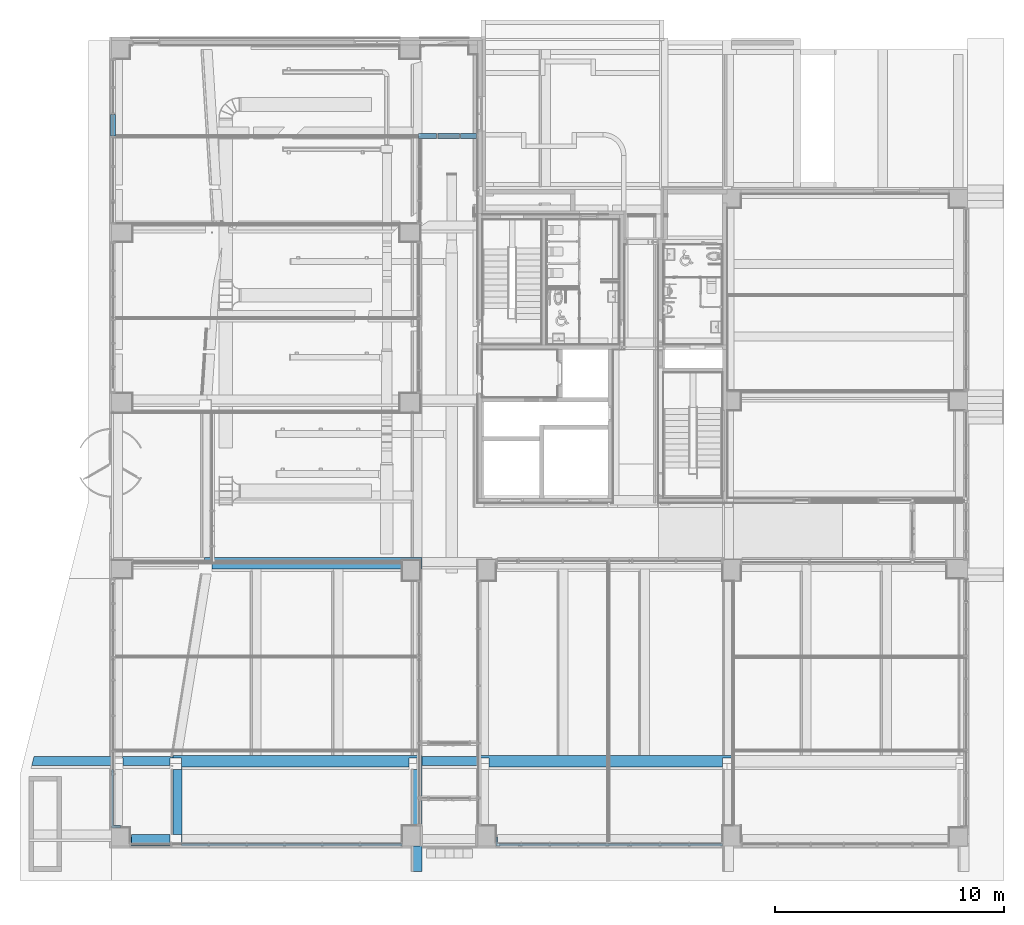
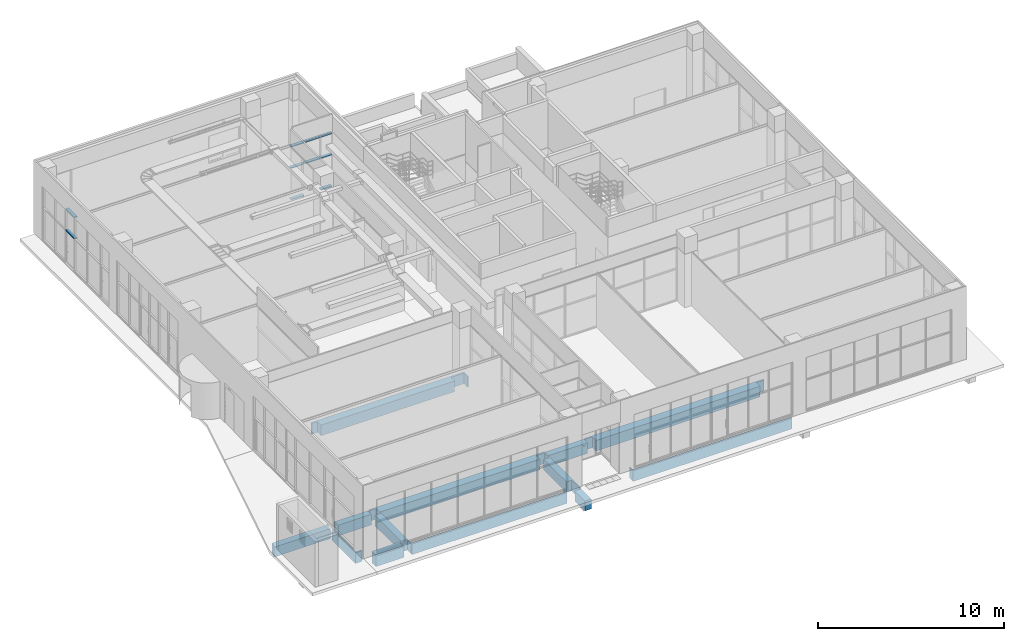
# One storey, part 20 of 100: 14 beams, 10 members, 2 elements without a shape of their own.
"""IFC2X3 building model written with IfcOpenShell, lengths in millimetres."""

from ifc_helpers import new_model, entity, si_unit, converted_unit, derived_unit, direction, frame, origin, origin_2d_with_axis, place, context, subcontext, project, spatial, rectangle, extrude, faceted_brep, source, transform, mapped, material, type_object, type_shapes, element, aggregate, save


model = new_model("IFC2X3")

# Units and contexts
model_context = context("Model", 3, precision=0.01, world=origin(), true_north=direction((6.123031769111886e-17, 1.0)))
body_context = subcontext(model_context, "Body", "Model", "MODEL_VIEW")
ifc_project = project(units=[si_unit("LENGTHUNIT", "METRE", prefix="MILLI"), si_unit("AREAUNIT", "SQUARE_METRE"), si_unit("VOLUMEUNIT", "CUBIC_METRE"), converted_unit("PLANEANGLEUNIT", "DEGREE", entity("IfcRatioMeasure", 0.017453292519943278), si_unit("PLANEANGLEUNIT", "RADIAN"), dimensions=[0, 0, 0, 0, 0, 0, 0]), si_unit("MASSUNIT", "GRAM", prefix="KILO"), derived_unit("MASSDENSITYUNIT", [(si_unit("MASSUNIT", "GRAM", prefix="KILO"), 1), (si_unit("LENGTHUNIT", "METRE"), -3)]), derived_unit("MOMENTOFINERTIAUNIT", [(si_unit("LENGTHUNIT", "METRE"), 4)]), si_unit("TIMEUNIT", "SECOND"), si_unit("FREQUENCYUNIT", "HERTZ"), si_unit("THERMODYNAMICTEMPERATUREUNIT", "DEGREE_CELSIUS"), derived_unit("THERMALTRANSMITTANCEUNIT", [(si_unit("MASSUNIT", "GRAM", prefix="KILO"), 1), (si_unit("THERMODYNAMICTEMPERATUREUNIT", "KELVIN"), -1), (si_unit("TIMEUNIT", "SECOND"), -3)]), derived_unit("VOLUMETRICFLOWRATEUNIT", [(si_unit("LENGTHUNIT", "METRE"), 3), (si_unit("TIMEUNIT", "SECOND"), -1)]), derived_unit("MASSFLOWRATEUNIT", [(si_unit("MASSUNIT", "GRAM", prefix="KILO"), 1), (si_unit("TIMEUNIT", "SECOND"), -1)]), derived_unit("ROTATIONALFREQUENCYUNIT", [(si_unit("TIMEUNIT", "SECOND"), -1)]), si_unit("ELECTRICCURRENTUNIT", "AMPERE"), si_unit("ELECTRICVOLTAGEUNIT", "VOLT"), si_unit("POWERUNIT", "WATT"), si_unit("FORCEUNIT", "NEWTON", prefix="KILO"), si_unit("ILLUMINANCEUNIT", "LUX"), si_unit("LUMINOUSFLUXUNIT", "LUMEN"), si_unit("LUMINOUSINTENSITYUNIT", "CANDELA"), derived_unit("USERDEFINED", [(si_unit("MASSUNIT", "GRAM", prefix="KILO"), -1), (si_unit("LENGTHUNIT", "METRE"), -2), (si_unit("TIMEUNIT", "SECOND"), 3), (si_unit("LUMINOUSFLUXUNIT", "LUMEN"), 1)]), derived_unit("SOUNDPOWERUNIT", [(si_unit("MASSUNIT", "GRAM", prefix="KILO"), 1), (si_unit("LENGTHUNIT", "METRE"), 2), (si_unit("TIMEUNIT", "SECOND"), -3)]), derived_unit("SOUNDPRESSUREUNIT", [(si_unit("MASSUNIT", "GRAM", prefix="KILO"), 1), (si_unit("LENGTHUNIT", "METRE"), -1), (si_unit("TIMEUNIT", "SECOND"), -2)]), derived_unit("LINEARVELOCITYUNIT", [(si_unit("LENGTHUNIT", "METRE"), 1), (si_unit("TIMEUNIT", "SECOND"), -1)]), si_unit("PRESSUREUNIT", "PASCAL"), derived_unit("USERDEFINED", [(si_unit("LENGTHUNIT", "METRE"), -2), (si_unit("MASSUNIT", "GRAM", prefix="KILO"), 1), (si_unit("TIMEUNIT", "SECOND"), -2)]), derived_unit("LINEARFORCEUNIT", [(si_unit("MASSUNIT", "GRAM", prefix="KILO"), 1), (si_unit("LENGTHUNIT", "METRE"), 1), (si_unit("TIMEUNIT", "SECOND"), -2), (si_unit("LENGTHUNIT", "METRE"), -1)]), derived_unit("PLANARFORCEUNIT", [(si_unit("MASSUNIT", "GRAM", prefix="KILO"), 1), (si_unit("LENGTHUNIT", "METRE"), 1), (si_unit("TIMEUNIT", "SECOND"), -2), (si_unit("LENGTHUNIT", "METRE"), -2)])], contexts=[model_context])

# Site, building, storey
site_placement = place(None, frame((-14167.972527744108, -657.2125860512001, 0.0)))
site = spatial("IfcSite", under=ifc_project, at=site_placement, Name="Default", CompositionType="ELEMENT")
building_placement = place(site_placement, origin())
building = spatial("IfcBuilding", under=site, at=building_placement, Name="Sample Building", CompositionType="ELEMENT")
storey_placement = place(building_placement, origin())
storey = spatial("IfcBuildingStorey", under=building, at=storey_placement, Name="지상 1층", CompositionType="ELEMENT", Elevation=0.0)

# Curtain wall, member
curtain_wall_type = type_object("IfcCurtainWallType", Name="커튼월:CW112-스테인리스 스틸 커튼월", PredefinedType="NOTDEFINED")
curtain_wall_1_placement = place(storey_placement, origin())
curtain_wall_1 = element("IfcCurtainWall", 1, at=curtain_wall_1_placement, inside=storey, type_object=curtain_wall_type, Name="커튼월:CW112-스테인리스 스틸 커튼월", ObjectType="커튼월:CW112-스테인리스 스틸 커튼월")
ifc_material_1 = material(Name="<Unnamed>")
member_type_1 = type_object("IfcMemberType", Name="직사각형 멀리언:CW200-직사각형 멀리언 50x200mm", PredefinedType="MULLION", material=ifc_material_1)
shared_shape_1 = source(origin(), body_context, "Body", "SweptSolid", [
    extrude(rectangle(XDim=200.0, YDim=50.0, at=origin_2d_with_axis()), frame((-25.0, 0.0, -950.0), z_axis=(0.0, 0.0, 1.0), x_axis=(0.0, -1.0, 0.0)), (0.0, 0.0, 1.0), 949.9999999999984),
])
type_shapes(member_type_1, [shared_shape_1])
member_1_placement = place(curtain_wall_1_placement, frame((14130.455105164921, 31582.177748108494, 3600.0), z_axis=(0.0, -1.0, 0.0), x_axis=(0.0, 0.0, 1.0)))
member_1 = element("IfcMember", 2, at=member_1_placement, type_object=member_type_1, material=ifc_material_1, Name="직사각형 멀리언:CW200-직사각형 멀리언 50x200mm", ObjectType="직사각형 멀리언:CW200-직사각형 멀리언 50x200mm", context=body_context, shape_type="MappedRepresentation", body=[
    mapped(shared_shape_1, transform((0.0, 0.0, 0.0), scale=1.0)),
])

curtain_wall_2_placement = place(storey_placement, origin())
curtain_wall_2 = element("IfcCurtainWall", 3, at=curtain_wall_2_placement, inside=storey, type_object=curtain_wall_type, Name="커튼월:CW112-스테인리스 스틸 커튼월", ObjectType="커튼월:CW112-스테인리스 스틸 커튼월")
member_2_placement = place(curtain_wall_2_placement, frame((29274.12581445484, 31587.177748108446, 3600.0), z_axis=(1.0, 0.0, 0.0), x_axis=(0.0, 0.0, 1.0)))
member_2 = element("IfcMember", 4, at=member_2_placement, type_object=member_type_1, material=ifc_material_1, Name="직사각형 멀리언:CW200-직사각형 멀리언 50x200mm", ObjectType="직사각형 멀리언:CW200-직사각형 멀리언 50x200mm", context=body_context, shape_type="MappedRepresentation", body=[
    mapped(shared_shape_1, transform((0.0, 0.0, 0.0), scale=1.0)),
])

# Member
member_type_2 = type_object("IfcMemberType", Name="직사각형 멀리언:CW200-직사각형 멀리언 50x200mm", PredefinedType="MULLION", material=ifc_material_1)
shared_shape_2 = source(origin(), body_context, "Body", "SweptSolid", [
    extrude(rectangle(XDim=200.0, YDim=50.0, at=origin_2d_with_axis()), frame((0.0, 0.0, -950.0), z_axis=(0.0, 0.0, 1.0), x_axis=(0.0, -1.0, 0.0)), (0.0, 0.0, 1.0), 949.9999999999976),
])
type_shapes(member_type_2, [shared_shape_2])
member_3_placement = place(curtain_wall_1_placement, frame((14130.455105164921, 31582.177748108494, 2180.0), z_axis=(0.0, -1.0, 0.0), x_axis=(0.0, 0.0, 1.0)))
member_3 = element("IfcMember", 5, at=member_3_placement, type_object=member_type_2, material=ifc_material_1, Name="직사각형 멀리언:CW200-직사각형 멀리언 50x200mm", ObjectType="직사각형 멀리언:CW200-직사각형 멀리언 50x200mm", context=body_context, shape_type="MappedRepresentation", body=[
    mapped(shared_shape_2, transform((0.0, 0.0, 0.0), scale=1.0)),
])

aggregate(curtain_wall_1, [member_1, member_3])

member_4_placement = place(curtain_wall_2_placement, frame((29274.12581445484, 31587.177748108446, 2180.0), z_axis=(1.0, 0.0, 0.0), x_axis=(0.0, 0.0, 1.0)))
member_4 = element("IfcMember", 6, at=member_4_placement, type_object=member_type_2, material=ifc_material_1, Name="직사각형 멀리언:CW200-직사각형 멀리언 50x200mm", ObjectType="직사각형 멀리언:CW200-직사각형 멀리언 50x200mm", context=body_context, shape_type="MappedRepresentation", body=[
    mapped(shared_shape_2, transform((0.0, 0.0, 0.0), scale=1.0)),
])

member_type_3 = type_object("IfcMemberType", Name="직사각형 멀리언:CW200-직사각형 멀리언 50x200mm", PredefinedType="MULLION", material=ifc_material_1)
shared_shape_3 = source(origin(), body_context, "Body", "SweptSolid", [
    extrude(rectangle(XDim=200.0, YDim=50.0, at=origin_2d_with_axis()), frame((-25.0, 0.0, -692.0), z_axis=(0.0, 0.0, 1.0), x_axis=(0.0, -1.0, 0.0)), (0.0, 0.0, 1.0), 691.9999999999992),
])
type_shapes(member_type_3, [shared_shape_3])
member_5_placement = place(curtain_wall_2_placement, frame((30016.125814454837, 31587.177748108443, 3600.0), z_axis=(1.0, 0.0, 0.0), x_axis=(0.0, 0.0, 1.0)))
member_5 = element("IfcMember", 7, at=member_5_placement, type_object=member_type_3, material=ifc_material_1, Name="직사각형 멀리언:CW200-직사각형 멀리언 50x200mm", ObjectType="직사각형 멀리언:CW200-직사각형 멀리언 50x200mm", context=body_context, shape_type="MappedRepresentation", body=[
    mapped(shared_shape_3, transform((0.0, 0.0, 0.0), scale=1.0)),
])

member_type_4 = type_object("IfcMemberType", Name="직사각형 멀리언:CW200-직사각형 멀리언 50x200mm", PredefinedType="MULLION", material=ifc_material_1)
shared_shape_4 = source(origin(), body_context, "Body", "SweptSolid", [
    extrude(rectangle(XDim=200.0, YDim=50.0, at=origin_2d_with_axis()), frame((-25.0, 0.0, -801.1533233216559), z_axis=(0.0, 0.0, 1.0), x_axis=(0.0, -1.0, 0.0)), (0.0, 0.0, 1.0), 801.1533233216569),
])
type_shapes(member_type_4, [shared_shape_4])
member_6_placement = place(curtain_wall_2_placement, frame((27472.97249113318, 31587.17774810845, 80.0), z_axis=(-1.0, 0.0, 0.0), x_axis=(0.0, 0.0, -1.0)))
member_6 = element("IfcMember", 8, at=member_6_placement, type_object=member_type_4, material=ifc_material_1, Name="직사각형 멀리언:CW200-직사각형 멀리언 50x200mm", ObjectType="직사각형 멀리언:CW200-직사각형 멀리언 50x200mm", context=body_context, shape_type="MappedRepresentation", body=[
    mapped(shared_shape_4, transform((0.0, 0.0, 0.0), scale=1.0)),
])

member_type_5 = type_object("IfcMemberType", Name="직사각형 멀리언:CW200-직사각형 멀리언 50x200mm", PredefinedType="MULLION", material=ifc_material_1)
shared_shape_5 = source(origin(), body_context, "Body", "SweptSolid", [
    extrude(rectangle(XDim=200.0, YDim=50.0, at=origin_2d_with_axis()), frame((0.0, 0.0, -801.1533233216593), z_axis=(0.0, 0.0, 1.0), x_axis=(0.0, -1.0, 0.0)), (0.0, 0.0, 1.0), 801.1533233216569),
])
type_shapes(member_type_5, [shared_shape_5])
member_7_placement = place(curtain_wall_2_placement, frame((28274.125814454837, 31587.177748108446, 2180.0), z_axis=(1.0, 0.0, 0.0), x_axis=(0.0, 0.0, 1.0)))
member_7 = element("IfcMember", 9, at=member_7_placement, type_object=member_type_5, material=ifc_material_1, Name="직사각형 멀리언:CW200-직사각형 멀리언 50x200mm", ObjectType="직사각형 멀리언:CW200-직사각형 멀리언 50x200mm", context=body_context, shape_type="MappedRepresentation", body=[
    mapped(shared_shape_5, transform((0.0, 0.0, 0.0), scale=1.0)),
])

member_type_6 = type_object("IfcMemberType", Name="직사각형 멀리언:CW200-직사각형 멀리언 50x200mm", PredefinedType="MULLION", material=ifc_material_1)
shared_shape_6 = source(origin(), body_context, "Body", "SweptSolid", [
    extrude(rectangle(XDim=200.0, YDim=50.0, at=origin_2d_with_axis()), frame((-25.0, 0.0, -801.1533233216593), z_axis=(0.0, 0.0, 1.0), x_axis=(0.0, -1.0, 0.0)), (0.0, 0.0, 1.0), 801.1533233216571),
])
type_shapes(member_type_6, [shared_shape_6])
member_8_placement = place(curtain_wall_2_placement, frame((28274.125814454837, 31587.177748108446, 3600.0), z_axis=(1.0, 0.0, 0.0), x_axis=(0.0, 0.0, 1.0)))
member_8 = element("IfcMember", 10, at=member_8_placement, type_object=member_type_6, material=ifc_material_1, Name="직사각형 멀리언:CW200-직사각형 멀리언 50x200mm", ObjectType="직사각형 멀리언:CW200-직사각형 멀리언 50x200mm", context=body_context, shape_type="MappedRepresentation", body=[
    mapped(shared_shape_6, transform((0.0, 0.0, 0.0), scale=1.0)),
])

member_type_7 = type_object("IfcMemberType", Name="직사각형 멀리언:CW200-직사각형 멀리언 50x200mm", PredefinedType="MULLION", material=ifc_material_1)
shared_shape_7 = source(origin(), body_context, "Body", "SweptSolid", [
    extrude(rectangle(XDim=200.0, YDim=50.0, at=origin_2d_with_axis()), frame((-25.0, 0.0, -692.0), z_axis=(0.0, 0.0, 1.0), x_axis=(0.0, -1.0, 0.0)), (0.0, 0.0, 1.0), 691.9999999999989),
])
type_shapes(member_type_7, [shared_shape_7])
member_9_placement = place(curtain_wall_2_placement, frame((29324.125814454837, 31587.177748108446, 80.0), z_axis=(-1.0, 0.0, 0.0), x_axis=(0.0, 0.0, -1.0)))
member_9 = element("IfcMember", 11, at=member_9_placement, type_object=member_type_7, material=ifc_material_1, Name="직사각형 멀리언:CW200-직사각형 멀리언 50x200mm", ObjectType="직사각형 멀리언:CW200-직사각형 멀리언 50x200mm", context=body_context, shape_type="MappedRepresentation", body=[
    mapped(shared_shape_7, transform((0.0, 0.0, 0.0), scale=1.0)),
])

member_type_8 = type_object("IfcMemberType", Name="직사각형 멀리언:CW200-직사각형 멀리언 50x200mm", PredefinedType="MULLION", material=ifc_material_1)
shared_shape_8 = source(origin(), body_context, "Body", "SweptSolid", [
    extrude(rectangle(XDim=200.0, YDim=50.0, at=origin_2d_with_axis()), frame((0.0, 0.0, -692.0), z_axis=(0.0, 0.0, 1.0), x_axis=(0.0, -1.0, 0.0)), (0.0, 0.0, 1.0), 691.9999999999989),
])
type_shapes(member_type_8, [shared_shape_8])
member_10_placement = place(curtain_wall_2_placement, frame((30016.125814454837, 31587.177748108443, 2180.0), z_axis=(1.0, 0.0, 0.0), x_axis=(0.0, 0.0, 1.0)))
member_10 = element("IfcMember", 12, at=member_10_placement, type_object=member_type_8, material=ifc_material_1, Name="직사각형 멀리언:CW200-직사각형 멀리언 50x200mm", ObjectType="직사각형 멀리언:CW200-직사각형 멀리언 50x200mm", context=body_context, shape_type="MappedRepresentation", body=[
    mapped(shared_shape_8, transform((0.0, 0.0, 0.0), scale=1.0)),
])

aggregate(curtain_wall_2, [member_5, member_6, member_7, member_8, member_4, member_2, member_9, member_10])

# Beams
ifc_material_2 = material(Name="KBIMS-콘크리트")
beam_type_1 = type_object("IfcBeamType", Name="BM111-철근콘크리트구조 보:BM110-철근 콘크리트구조 보_400 x 850_B1-1G3", PredefinedType="NOTDEFINED")
beam_1_placement = place(storey_placement, frame((14930.554555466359, 671.0771023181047, -850.0), z_axis=(0.0, 0.0, 1.0), x_axis=(-1.0, 0.0, 0.0)))
element("IfcBeam", 13, at=beam_1_placement, inside=storey, type_object=beam_type_1, material=ifc_material_2, Name="BM111-철근콘크리트구조 보:BM110-철근 콘크리트구조 보_400 x 850_B1-1G3", ObjectType="BM111-철근콘크리트구조 보:BM110-철근 콘크리트구조 보_400 x 850_B1-1G3", context=body_context, shape_type="Brep", body=[
    faceted_brep([(0.0, -400.0, 0.0), (0.0, -286.13550187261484, 0.0), (0.0, 0.0, 0.0), (0.0, 0.0, 700.0), (0.0, -286.1355018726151, 700.0), (0.0, -400.0, 700.0), (-1687.391893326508, 0.0, 0.0), (-1687.391893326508, 0.0, 700.0), (-1737.3918933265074, -400.0, 0.0), (-1812.6913436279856, -400.0, 0.0), (-2212.691343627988, -400.0, 0.0), (-2212.691343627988, 0.0, 0.0), (-2187.3918933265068, 0.0, 0.0), (-2187.3918933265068, -386.1355018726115, 0.0), (-1687.391893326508, -386.1355018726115, 0.0), (-1737.3918933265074, -400.0, 700.0), (-1812.6913436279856, -400.0, 700.0), (-2212.691343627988, -400.0, 700.0), (-1687.391893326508, -386.1355018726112, 700.0), (-2187.3918933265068, -386.1355018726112, 700.0), (-2187.3918933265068, 0.0, 700.0), (-2212.691343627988, 0.0, 700.0)], [[[0, 1, 2, 3, 4, 5]], [[3, 2, 6, 7]], [[2, 1, 0, 8, 9, 10, 11, 12, 13, 14, 6]], [[0, 5, 15, 16, 17, 10, 9, 8]], [[5, 4, 3, 7, 18, 19, 20, 21, 17, 16, 15]], [[11, 10, 17, 21]], [[19, 13, 12, 20]], [[14, 18, 7, 6]], [[18, 14, 13, 19]], [[11, 21, 20, 12]]]),
])
beam_2_placement = place(storey_placement, frame((14543.237206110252, 4071.0771902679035, -850.0)))
element("IfcBeam", 14, at=beam_2_placement, inside=storey, type_object=beam_type_1, material=ifc_material_2, Name="BM111-철근콘크리트구조 보:BM110-철근 콘크리트구조 보_400 x 850_B1-1G3", ObjectType="BM111-철근콘크리트구조 보:BM110-철근 콘크리트구조 보_400 x 850_B1-1G3", context=body_context, shape_type="Brep", body=[
    faceted_brep([(0.0, 400.0, 0.0), (0.0, 400.0, 700.0), (2121.7153851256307, 400.0, 700.0), (2178.511854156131, 400.0, 700.0), (2200.008692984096, 400.0, 700.0), (2200.008692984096, 400.0, 0.0), (2178.511854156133, 400.0, 0.0), (2121.715385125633, 400.0, 0.0), (2200.008692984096, 336.13550187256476, 0.0), (2074.709242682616, 336.13550187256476, 0.0), (2074.709242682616, 0.0, 0.0), (24.717899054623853, 0.0, 0.0), (24.717899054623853, 336.13550187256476, 0.0), (0.0, 336.13550187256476, 0.0), (24.717899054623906, 0.0, 700.0), (2074.709242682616, 0.0, 700.0), (0.0, 336.13550187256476, 700.0), (24.717899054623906, 336.13550187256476, 700.0), (2074.709242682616, 336.13550187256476, 700.0), (2200.008692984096, 336.13550187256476, 700.0)], [[[0, 1, 2, 3, 4, 5, 6, 7]], [[0, 7, 6, 5, 8, 9, 10, 11, 12, 13]], [[14, 11, 10, 15]], [[4, 3, 2, 1, 16, 17, 14, 15, 18, 19]], [[1, 0, 13, 16]], [[5, 4, 19, 8]], [[17, 12, 11, 14]], [[12, 17, 16, 13]], [[9, 18, 15, 10]], [[18, 9, 8, 19]]]),
])
beam_3_placement = place(storey_placement, frame((16743.245899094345, 1071.0771023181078, -150.0), z_axis=(0.0, 0.0, 1.0), x_axis=(0.0, 1.0, 0.0)))
element("IfcBeam", 15, at=beam_3_placement, inside=storey, type_object=beam_type_1, material=ifc_material_2, Name="BM111-철근콘크리트구조 보:BM110-철근 콘크리트구조 보_400 x 850_B1-1G3", ObjectType="BM111-철근콘크리트구조 보:BM110-철근 콘크리트구조 보_400 x 850_B1-1G3", context=body_context, shape_type="Brep", body=[
    faceted_brep([(2950.0000879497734, -400.0, -700.0), (2950.0000879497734, -400.0, 0.0), (2836.135589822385, -400.0, 0.0), (0.0, -400.0, 0.0), (0.0, -400.0, -700.0), (2836.135589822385, -400.0, -700.0), (0.0, 0.0, -700.0), (2836.1355898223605, 0.0, -700.0), (2836.1355898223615, -374.7005496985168, -700.0), (2950.0000879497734, -374.7005496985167, -700.0), (0.0, 0.0, 0.0), (2836.1355898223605, 0.0, 0.0), (2950.0000879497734, -374.7005496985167, 0.0), (2836.1355898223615, -374.7005496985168, 0.0)], [[[0, 1, 2, 3, 4, 5]], [[4, 6, 7, 8, 9, 0, 5]], [[6, 10, 11, 7]], [[1, 0, 9, 12]], [[10, 3, 2, 1, 12, 13, 11]], [[6, 4, 3, 10]], [[8, 13, 12, 9]], [[13, 8, 7, 11]]]),
])
beam_4_placement = place(storey_placement, frame((27243.237206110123, 671.0771023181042, -850.0), z_axis=(0.0, 0.0, 1.0), x_axis=(0.0, 1.0, 0.0)))
element("IfcBeam", 16, at=beam_4_placement, inside=storey, type_object=beam_type_1, material=ifc_material_2, Name="BM111-철근콘크리트구조 보:BM110-철근 콘크리트구조 보_400 x 850_B1-1G3", ObjectType="BM111-철근콘크리트구조 보:BM110-철근 콘크리트구조 보_400 x 850_B1-1G3", context=body_context, shape_type="Brep", body=[
    faceted_brep([(3350.0000879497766, -400.0, 700.0), (3286.135589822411, -400.0, 700.0), (400.0, -400.0, 700.0), (0.0, -400.0, 700.0), (0.0, -400.0, 0.0), (400.0, -400.0, 0.0), (3286.135589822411, -400.0, 0.0), (3350.0000879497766, -400.0, 0.0), (0.0, -324.7179356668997, 0.0), (786.1350799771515, -324.7179356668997, 0.0), (786.1350799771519, 0.0, 0.0), (3236.135589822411, 0.0, 0.0), (3236.135589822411, -324.7179356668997, 0.0), (3350.0000879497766, -324.7179356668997, 0.0), (786.1350799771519, 0.0, 700.0), (3236.135589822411, 0.0, 700.0), (3350.0000879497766, -324.7179356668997, 700.0), (3236.135589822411, -324.7179356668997, 700.0), (786.1350799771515, -324.7179356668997, 700.0), (0.0, -324.7179356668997, 700.0)], [[[0, 1, 2, 3, 4, 5, 6, 7]], [[7, 6, 5, 4, 8, 9, 10, 11, 12, 13]], [[10, 14, 15, 11]], [[0, 7, 13, 16]], [[3, 2, 1, 0, 16, 17, 15, 14, 18, 19]], [[4, 3, 19, 8]], [[18, 9, 8, 19]], [[9, 18, 14, 10]], [[12, 17, 16, 13]], [[17, 12, 11, 15]]]),
])
beam_5_placement = place(storey_placement, frame((27643.237206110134, 4071.077190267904, -850.0)))
element("IfcBeam", 17, at=beam_5_placement, inside=storey, type_object=beam_type_1, material=ifc_material_2, Name="BM111-철근콘크리트구조 보:BM110-철근 콘크리트구조 보_400 x 850_B1-1G3", ObjectType="BM111-철근콘크리트구조 보:BM110-철근 콘크리트구조 보_400 x 850_B1-1G3", context=body_context, shape_type="Brep", body=[
    faceted_brep([(0.0, 400.0, 700.0), (2424.709242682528, 400.0, 700.0), (2500.0, 400.0, 700.0), (2500.0, 400.0, 0.0), (2424.709242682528, 400.0, 0.0), (0.0, 400.0, 0.0), (0.0, 0.0, 0.0), (2500.0, 336.135501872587, 0.0), (2424.717908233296, 336.135501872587, 0.0), (2424.717908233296, 0.0, 0.0), (0.0, 0.0, 700.0), (2424.717908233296, 0.0, 700.0), (2500.0, 336.135501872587, 700.0), (2424.717908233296, 336.135501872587, 700.0)], [[[0, 1, 2, 3, 4, 5]], [[6, 5, 4, 3, 7, 8, 9]], [[10, 6, 9, 11]], [[5, 6, 10, 0]], [[3, 2, 12, 7]], [[0, 10, 11, 13, 12, 2, 1]], [[8, 13, 11, 9]], [[13, 8, 7, 12]]]),
])
beam_6_placement = place(storey_placement, frame((27243.237206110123, -542.7876920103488, -850.0), z_axis=(0.0, 0.0, 1.0), x_axis=(0.0, -1.0, 0.0)))
element("IfcBeam", 18, at=beam_6_placement, inside=storey, type_object=beam_type_1, material=ifc_material_2, Name="BM111-철근콘크리트구조 보:BM110-철근 콘크리트구조 보_400 x 850_B1-1G3", ObjectType="BM111-철근콘크리트구조 보:BM110-철근 콘크리트구조 보_400 x 850_B1-1G3", context=body_context, shape_type="Brep", body=[
    faceted_brep([(-1213.8647943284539, 400.0, 700.0), (-1100.000309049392, 400.0, 700.0), (-1100.000309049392, 400.0, 650.0), (0.0, 400.0, 650.0), (0.0, 400.0, 0.0), (-1100.0002962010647, 400.0, 0.0), (-1213.8647943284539, 400.0, 0.0), (0.0, 0.0, 0.0), (-1099.9998743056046, 0.0, 0.0), (-1099.9998743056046, 324.7179356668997, 0.0), (-1213.8647943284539, 324.7179356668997, 0.0), (0.0, 0.0, 650.0), (-1099.9998743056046, 0.0, 650.0), (-1213.864794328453, 324.7179356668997, 700.0), (-1100.0003090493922, 324.7179356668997, 700.0), (-1100.0003090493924, 0.0, 650.0), (-1099.9998743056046, 324.7179356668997, 650.0), (-1100.0003090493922, 324.7179356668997, 650.0)], [[[0, 1, 2, 3, 4, 5, 6]], [[4, 7, 8, 9, 10, 6, 5]], [[11, 12, 8, 7]], [[1, 0, 13, 14]], [[15, 11, 3, 2, 16]], [[2, 1, 14, 17]], [[7, 4, 3, 11]], [[17, 9, 8, 12]], [[9, 17, 14, 13, 10]], [[0, 6, 10, 13]]]),
])
beam_7_placement = place(storey_placement, frame((10580.671633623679, 4071.077190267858, -850.0), z_axis=(0.0, 0.0, 1.0), x_axis=(-1.0, 0.0, 0.0)))
element("IfcBeam", 19, at=beam_7_placement, inside=storey, type_object=beam_type_1, material=ifc_material_2, Name="BM111-철근콘크리트구조 보:BM110-철근 콘크리트구조 보_400 x 850_B1-1G3", ObjectType="BM111-철근콘크리트구조 보:BM110-철근 콘크리트구조 보_400 x 850_B1-1G3", context=body_context, shape_type="Brep", body=[
    faceted_brep([(-3487.2834715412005, -400.0, 650.0), (-3487.2834715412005, -400.0, 700.0), (-3562.574265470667, -400.0, 700.0), (-3562.574265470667, -400.0, 0.0), (-3487.274815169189, -400.0, 0.0), (-100.0, -400.0, 0.0), (-100.0, -400.0, 650.0), (0.0, 0.0, 0.0), (-3562.574265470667, -336.1355018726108, 0.0), (-3487.283471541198, -336.1355018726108, 0.0), (-3487.283471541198, 0.0, 0.0), (-3487.2834715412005, 0.0, 650.0), (0.0, 0.0, 650.0), (-3487.2834715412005, -336.1355018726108, 650.0), (-3487.2834715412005, -336.13550187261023, 700.0), (-3562.574265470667, -336.1355018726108, 700.0)], [[[0, 1, 2, 3, 4, 5, 6]], [[7, 5, 4, 3, 8, 9, 10]], [[11, 12, 7, 10]], [[0, 6, 12, 11, 13]], [[1, 0, 13, 14]], [[2, 1, 14, 15]], [[3, 2, 15, 8]], [[6, 5, 7, 12]], [[9, 13, 11, 10]], [[13, 9, 8, 15, 14]]]),
])
beam_8_placement = place(storey_placement, frame((14867.955105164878, 557.2126041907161, -850.0), z_axis=(0.0, 0.0, 1.0), x_axis=(-1.0, 0.0, 0.0)))
element("IfcBeam", 20, at=beam_8_placement, inside=storey, type_object=beam_type_1, material=ifc_material_2, Name="BM111-철근콘크리트구조 보:BM110-철근 콘크리트구조 보_400 x 850_B1-1G3", ObjectType="BM111-철근콘크리트구조 보:BM110-철근 콘크리트구조 보_400 x 850_B1-1G3", context=body_context, shape_type="Brep", body=[
    faceted_brep([(0.0, 0.0, 0.0), (-1749.991343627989, 0.0, 0.0), (-1749.991343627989, 0.0, 650.0), (-1749.991343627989, 0.0, 700.0), (0.0, 0.0, 700.0), (0.0, 0.0, 650.0), (0.0, -400.0, 0.0), (-62.599450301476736, -400.0, 0.0), (-62.599450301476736, -113.86449812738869, 0.0), (-1749.991343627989, -113.86449812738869, 0.0), (0.0, -400.0, 700.0), (-62.599450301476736, -400.0, 700.0), (-1749.991343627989, -113.86449812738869, 700.0), (-62.599450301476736, -113.86449812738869, 700.0)], [[[0, 1, 2, 3, 4, 5]], [[0, 6, 7, 8, 9, 1]], [[6, 10, 11, 7]], [[2, 1, 9, 12, 3]], [[6, 0, 5, 4, 10]], [[4, 3, 12, 13, 11, 10]], [[13, 8, 7, 11]], [[8, 13, 12, 9]]]),
])
beam_9_placement = place(storey_placement, frame((14067.937755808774, 1357.2121951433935, -850.0), z_axis=(0.0, 0.0, 1.0), x_axis=(0.0, 1.0, 0.0)))
element("IfcBeam", 21, at=beam_9_placement, inside=storey, type_object=beam_type_1, material=ifc_material_2, Name="BM111-철근콘크리트구조 보:BM110-철근 콘크리트구조 보_400 x 850_B1-1G3", ObjectType="BM111-철근콘크리트구조 보:BM110-철근 콘크리트구조 보_400 x 850_B1-1G3", context=body_context, shape_type="Brep", body=[
    faceted_brep([(0.0, -400.0, 700.0), (0.0, -400.0, 0.0), (101.16449812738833, -400.0, 0.0), (101.16449812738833, -400.0, 700.0), (0.0, 0.0, 0.0), (2550.0004969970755, 0.0, 0.0), (2550.0004969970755, -75.29945030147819, 0.0), (101.16449812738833, -75.29945030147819, 0.0), (2550.0004969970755, 0.0, 700.0), (0.0, 0.0, 700.0), (2550.0004969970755, -75.29945030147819, 700.0), (101.16449812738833, -75.29945030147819, 700.0)], [[[0, 1, 2, 3]], [[1, 4, 5, 6, 7, 2]], [[8, 5, 4, 9]], [[5, 8, 10, 6]], [[4, 1, 0, 9]], [[8, 9, 0, 3, 11, 10]], [[7, 11, 3, 2]], [[11, 7, 6, 10]]]),
])
beam_type_2 = type_object("IfcBeamType", Name="BM111-철근콘크리트구조 보:BM110-철근 콘크리트구조 보_400 x 850_B1-1G1", PredefinedType="NOTDEFINED")
beam_10_placement = place(storey_placement, frame((17117.946448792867, 557.2126041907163, -850.0), z_axis=(0.0, 0.0, 1.0), x_axis=(-1.0, 0.0, 0.0)))
element("IfcBeam", 22, at=beam_10_placement, inside=storey, type_object=beam_type_2, material=ifc_material_2, Name="BM111-철근콘크리트구조 보:BM110-철근 콘크리트구조 보_400 x 850_B1-1G1", ObjectType="BM111-철근콘크리트구조 보:BM110-철근 콘크리트구조 보_400 x 850_B1-1G1", context=body_context, shape_type="Brep", body=[
    faceted_brep([(-9650.004346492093, 0.0, 0.0), (-9650.004346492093, -400.0, 0.0), (-9650.004346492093, -400.0, 700.0), (-9650.004346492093, 0.0, 700.0), (-9650.004346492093, 0.0, 650.0), (0.0, 0.0, 0.0), (0.0, 0.0, 700.0), (0.0, 0.0, 650.0), (0.0, -113.86449812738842, 0.0), (-25.29945030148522, -113.86449812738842, 0.0), (-9649.295103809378, -113.86449812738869, 0.0), (-9649.295103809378, -400.0, 0.0), (-9649.295103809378, -400.0, 700.0), (0.0, -113.86449812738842, 700.0), (-9649.295103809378, -113.86449812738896, 700.0), (-25.29945030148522, -113.86449812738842, 700.0)], [[[0, 1, 2, 3, 4]], [[5, 0, 4, 3, 6, 7]], [[1, 0, 5, 8, 9, 10, 11]], [[2, 1, 11, 12]], [[8, 5, 7, 6, 13]], [[3, 2, 12, 14, 15, 13, 6]], [[8, 13, 15, 14, 10, 9]], [[10, 14, 12, 11]]]),
])
beam_11_placement = place(storey_placement, frame((30867.95514177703, 557.2125162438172, -850.0)))
element("IfcBeam", 23, at=beam_11_placement, inside=storey, type_object=beam_type_2, material=ifc_material_2, Name="BM111-철근콘크리트구조 보:BM110-철근 콘크리트구조 보_400 x 850_B1-1G1", ObjectType="BM111-철근콘크리트구조 보:BM110-철근 콘크리트구조 보_400 x 850_B1-1G1", context=body_context, shape_type="Brep", body=[
    faceted_brep([(0.0, 0.0, 0.0), (9898.566204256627, 0.0, 0.0), (9898.566204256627, 0.0, 650.0), (9898.566204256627, 0.0, 700.0), (0.0, 0.0, 700.0), (0.0, 0.0, 650.0), (0.0, 400.0, 0.0), (61.16565455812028, 400.0, 0.0), (61.165654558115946, 113.86449812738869, 0.0), (9898.566204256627, 113.86449812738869, 0.0), (0.0, 400.0, 700.0), (61.16565455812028, 400.0, 700.0), (9898.566204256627, 113.86449812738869, 700.0), (61.16565455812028, 113.86449812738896, 700.0)], [[[0, 1, 2, 3, 4, 5]], [[0, 6, 7, 8, 9, 1]], [[6, 10, 11, 7]], [[2, 1, 9, 12, 3]], [[6, 0, 5, 4, 10]], [[4, 3, 12, 13, 11, 10]], [[13, 8, 7, 11]], [[8, 13, 12, 9]]]),
])
beam_type_3 = type_object("IfcBeamType", Name="BM111-철근콘크리트구조 보:BM110-철근 콘크리트구조 보_500 x 850_B1-1G5", PredefinedType="NOTDEFINED")
beam_12_placement = place(storey_placement, frame((16743.245899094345, 4021.0771902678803, -850.0), z_axis=(0.0, 0.0, 1.0), x_axis=(-1.0, 0.0, 0.0)))
element("IfcBeam", 24, at=beam_12_placement, inside=storey, type_object=beam_type_3, material=ifc_material_2, Name="BM111-철근콘크리트구조 보:BM110-철근 콘크리트구조 보_500 x 850_B1-1G5", ObjectType="BM111-철근콘크리트구조 보:BM110-철근 콘크리트구조 보_500 x 850_B1-1G5", context=body_context, shape_type="Brep", body=[
    faceted_brep([(-10899.99130701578, -500.0, 0.0), (-10899.628806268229, -500.0, 0.0), (-10499.628806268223, -500.0, 0.0), (-10424.32935596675, -500.0, 0.0), (-7433.349849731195, -500.0, 0.0), (-7033.34984973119, -500.0, 0.0), (-6958.050399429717, -500.0, 0.0), (-3866.683183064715, -500.0, 0.0), (-3466.683183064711, -500.0, 0.0), (-3391.3837327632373, -500.0, 0.0), (-391.87499985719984, -500.0, 0.0), (0.0, -500.0, 0.0), (0.0, -500.0, 700.0), (-391.87499985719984, -500.0, 700.0), (-3391.3837327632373, -500.0, 700.0), (-3466.683183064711, -500.0, 700.0), (-3866.683183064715, -500.0, 700.0), (-6958.050399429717, -500.0, 700.0), (-7033.34984973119, -500.0, 700.0), (-7433.349849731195, -500.0, 700.0), (-10424.32935596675, -500.0, 700.0), (-10499.628806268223, -500.0, 700.0), (-10899.628806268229, -500.0, 700.0), (-10899.99130701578, -500.0, 700.0), (-10899.99130701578, -450.0, 0.0), (-10899.99130701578, -50.0, 0.0), (-10899.99130701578, 0.0, 0.0), (-10824.709242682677, 0.0, 0.0), (-10824.709242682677, -386.1355018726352, 0.0), (-10324.709242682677, -386.1355018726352, 0.0), (-10324.709242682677, 0.0, 0.0), (-400.0, 0.0, 0.0), (-374.70054969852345, 0.0, 0.0), (-374.70054969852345, -386.13550187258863, 0.0), (0.0, -386.13550187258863, 0.0), (0.0, -450.0, 0.0), (-374.70054969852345, 0.0, 700.0), (-10324.709242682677, 0.0, 700.0), (-400.0, 0.0, 700.0), (-10899.99130701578, 0.0, 700.0), (-10899.99130701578, -50.0, 700.0), (-10899.99130701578, -450.0, 700.0), (0.0, -450.0, 700.0), (0.0, -386.13550187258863, 700.0), (-374.70054969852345, -386.13550187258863, 700.0), (-10324.709242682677, -386.1355018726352, 700.0), (-10824.709242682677, -386.1355018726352, 700.0), (-10824.709242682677, 0.0, 700.0)], [[[0, 1, 2, 3, 4, 5, 6, 7, 8, 9, 10, 11, 12, 13, 14, 15, 16, 17, 18, 19, 20, 21, 22, 23]], [[11, 10, 9, 8, 7, 6, 5, 4, 3, 2, 1, 0, 24, 25, 26, 27, 28, 29, 30, 31, 32, 33, 34, 35]], [[36, 32, 31, 30, 37, 38]], [[39, 40, 41, 23, 22, 21, 20, 19, 18, 17, 16, 15, 14, 13, 12, 42, 43, 44, 36, 38, 37, 45, 46, 47]], [[12, 11, 35, 34, 43, 42]], [[26, 25, 24, 0, 23, 41, 40, 39]], [[44, 33, 32, 36]], [[33, 44, 43, 34]], [[46, 28, 27, 47]], [[29, 45, 37, 30]], [[45, 29, 28, 46]], [[26, 39, 47, 27]]]),
])
beam_13_placement = place(storey_placement, frame((30143.237206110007, 4021.0771902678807, -850.0)))
element("IfcBeam", 25, at=beam_13_placement, inside=storey, type_object=beam_type_3, material=ifc_material_2, Name="BM111-철근콘크리트구조 보:BM110-철근 콘크리트구조 보_500 x 850_B1-1G5", ObjectType="BM111-철근콘크리트구조 보:BM110-철근 콘크리트구조 보_500 x 850_B1-1G5", context=body_context, shape_type="Brep", body=[
    faceted_brep([(0.0, 500.0, 700.0), (400.008692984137, 500.0, 700.0), (3391.375909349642, 500.0, 700.0), (3466.67535965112, 500.0, 700.0), (3866.6753596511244, 500.0, 700.0), (6958.04257601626, 500.0, 700.0), (7033.342026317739, 500.0, 700.0), (7433.342026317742, 500.0, 700.0), (10624.70924268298, 500.0, 700.0), (10700.008692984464, 500.0, 700.0), (11100.008692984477, 500.0, 700.0), (11100.37119373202, 500.0, 700.0), (11100.37119373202, 500.0, 0.0), (11100.008692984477, 500.0, 0.0), (10700.008692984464, 500.0, 0.0), (10624.70924268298, 500.0, 0.0), (7433.342026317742, 500.0, 0.0), (7033.342026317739, 500.0, 0.0), (6958.04257601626, 500.0, 0.0), (3866.6753596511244, 500.0, 0.0), (3466.67535965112, 500.0, 0.0), (3391.375909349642, 500.0, 0.0), (400.008692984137, 500.0, 0.0), (0.0, 500.0, 0.0), (11100.37119373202, 386.1355018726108, 0.0), (10624.717935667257, 386.1355018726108, 0.0), (10624.717935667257, 0.0, 0.0), (424.7179082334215, 0.0, 0.0), (424.7179082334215, 386.1355018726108, 0.0), (0.0, 386.1355018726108, 0.0), (0.0, 450.0, 0.0), (424.7179082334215, 0.0, 700.0), (10624.717935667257, 0.0, 700.0), (0.0, 450.0, 700.0), (0.0, 386.1355018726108, 700.0), (424.7179082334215, 386.1355018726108, 700.0), (10624.717935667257, 386.1355018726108, 700.0), (11100.37119373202, 386.1355018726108, 700.0)], [[[0, 1, 2, 3, 4, 5, 6, 7, 8, 9, 10, 11, 12, 13, 14, 15, 16, 17, 18, 19, 20, 21, 22, 23]], [[23, 22, 21, 20, 19, 18, 17, 16, 15, 14, 13, 12, 24, 25, 26, 27, 28, 29, 30]], [[31, 27, 26, 32]], [[11, 10, 9, 8, 7, 6, 5, 4, 3, 2, 1, 0, 33, 34, 35, 31, 32, 36, 37]], [[0, 23, 30, 29, 34, 33]], [[12, 11, 37, 24]], [[35, 28, 27, 31]], [[28, 35, 34, 29]], [[25, 36, 32, 26]], [[36, 25, 24, 37]]]),
])
beam_14_placement = place(storey_placement, frame((18116.996083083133, 12671.077049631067, -850.0), z_axis=(0.0, 0.0, 1.0), x_axis=(-1.0, 0.0, 0.0)))
element("IfcBeam", 26, at=beam_14_placement, inside=storey, type_object=beam_type_3, material=ifc_material_2, Name="BM111-철근콘크리트구조 보:BM110-철근 콘크리트구조 보_500 x 850_B1-1G5", ObjectType="BM111-철근콘크리트구조 보:BM110-철근 콘크리트구조 보_500 x 850_B1-1G5", context=body_context, shape_type="Brep", body=[
    faceted_brep([(-18.502979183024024, -500.0, 700.0), (-326.249816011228, -500.0, 700.0), (-9050.579171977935, -500.0, 700.0), (-9125.878622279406, -500.0, 700.0), (-9525.878622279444, -500.0, 700.0), (-9525.878622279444, -500.0, 0.0), (-9125.87862227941, -500.0, 0.0), (-9050.579171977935, -500.0, 0.0), (-326.249816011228, -500.0, 0.0), (-18.502979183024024, -500.0, 0.0), (-9525.878622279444, -100.00005268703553, 0.0), (-9525.878622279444, 0.0, 0.0), (-9450.959058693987, 0.0, 0.0), (-9450.959058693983, -386.1355674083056, 0.0), (-8650.959058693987, -386.1355674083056, 0.0), (-8650.959058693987, 0.0, 0.0), (-6059.599665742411, 0.0, 0.0), (-5659.599665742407, 0.0, 0.0), (-2492.9329990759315, 0.0, 0.0), (-2092.932999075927, 0.0, 0.0), (-350.9503657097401, 0.0, 0.0), (-350.9503657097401, -386.1355147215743, 0.0), (0.0, -386.1355147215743, 0.0), (-8650.959058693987, 0.0, 700.0), (-6059.599665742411, 0.0, 700.0), (-5659.599665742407, 0.0, 700.0), (-2492.9329990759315, 0.0, 700.0), (-2092.932999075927, 0.0, 700.0), (-350.9503657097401, 0.0, 700.0), (0.0, -386.1355147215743, 700.0), (-350.9503657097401, -386.1355147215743, 700.0), (-8650.959058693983, -386.1355674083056, 700.0), (-9450.959058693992, -386.1355674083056, 700.0), (-9450.959058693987, 0.0, 700.0), (-9525.878622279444, 0.0, 700.0), (-9525.878622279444, -100.00005268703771, 700.0)], [[[0, 1, 2, 3, 4, 5, 6, 7, 8, 9]], [[5, 10, 11, 12, 13, 14, 15, 16, 17, 18, 19, 20, 21, 22, 9, 8, 7, 6]], [[15, 23, 24, 25, 26, 27, 28, 20, 19, 18, 17, 16]], [[4, 3, 2, 1, 0, 29, 30, 28, 27, 26, 25, 24, 23, 31, 32, 33, 34, 35]], [[11, 10, 5, 4, 35, 34]], [[0, 9, 22, 29]], [[32, 13, 12, 33]], [[14, 31, 23, 15]], [[31, 14, 13, 32]], [[11, 34, 33, 12]], [[30, 21, 20, 28]], [[21, 30, 29, 22]]]),
])

save(model, "model.ifc")
